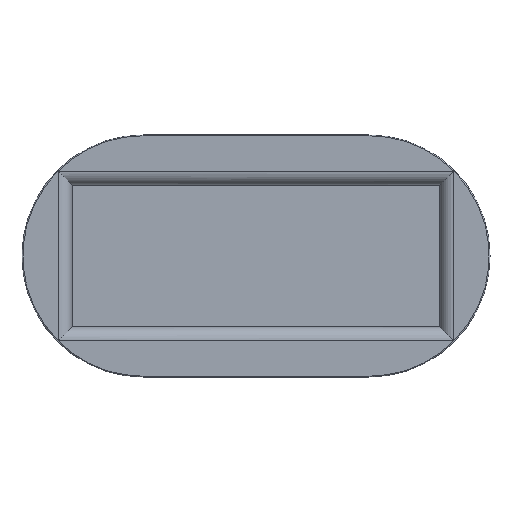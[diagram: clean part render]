
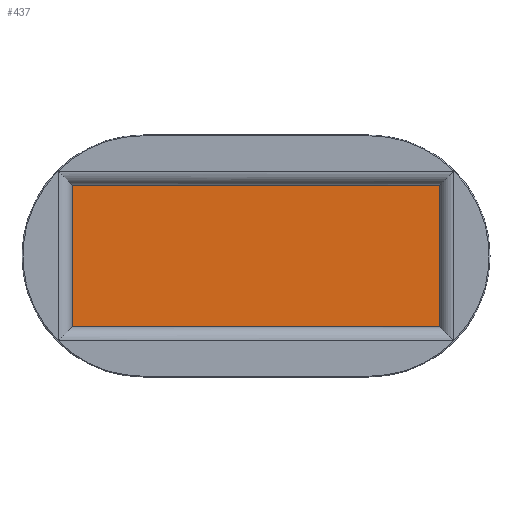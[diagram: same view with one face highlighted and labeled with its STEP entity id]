
A CAD part, top view. The second image highlights one B-rep face of the part: STEP entity #437.
In plain terms, the highlighted planar face has unit normal (0, 0, 1).
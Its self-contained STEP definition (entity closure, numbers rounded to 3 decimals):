
#7 = DIRECTION ( 'NONE',  ( 0., 0., 1. ) ) ;
#12 = CARTESIAN_POINT ( 'NONE',  ( 460., -180., 8.72 ) ) ;
#19 = DIRECTION ( 'NONE',  ( -1., 0., 0. ) ) ;
#58 = VERTEX_POINT ( 'NONE', #601 ) ;
#83 = EDGE_CURVE ( 'NONE', #58, #1250, #1380, .T. ) ;
#157 = CARTESIAN_POINT ( 'NONE',  ( 460., -180., 8.72 ) ) ;
#437 = ADVANCED_FACE ( 'NONE', ( #635 ), #905, .T. ) ;
#447 = VECTOR ( 'NONE', #1096, 1000. ) ;
#486 = VERTEX_POINT ( 'NONE', #157 ) ;
#601 = CARTESIAN_POINT ( 'NONE',  ( 460., 180., 8.72 ) ) ;
#635 = FACE_OUTER_BOUND ( 'NONE', #809, .T. ) ;
#693 = ORIENTED_EDGE ( 'NONE', *, *, #990, .T. ) ;
#723 = EDGE_CURVE ( 'NONE', #1250, #1653, #951, .T. ) ;
#809 = EDGE_LOOP ( 'NONE', ( #877, #693, #1647, #840 ) ) ;
#829 = LINE ( 'NONE', #1929, #878 ) ;
#840 = ORIENTED_EDGE ( 'NONE', *, *, #723, .T. ) ;
#877 = ORIENTED_EDGE ( 'NONE', *, *, #1826, .T. ) ;
#878 = VECTOR ( 'NONE', #1623, 1000. ) ;
#905 = PLANE ( 'NONE',  #1287 ) ;
#951 = LINE ( 'NONE', #1423, #447 ) ;
#954 = CARTESIAN_POINT ( 'NONE',  ( -460., -180., 8.72 ) ) ;
#990 = EDGE_CURVE ( 'NONE', #486, #58, #1037, .T. ) ;
#1037 = LINE ( 'NONE', #12, #1310 ) ;
#1085 = DIRECTION ( 'NONE',  ( 1., 0., 0. ) ) ;
#1096 = DIRECTION ( 'NONE',  ( 0., -1., 0. ) ) ;
#1250 = VERTEX_POINT ( 'NONE', #1630 ) ;
#1252 = CARTESIAN_POINT ( 'NONE',  ( 0., 0., 8.72 ) ) ;
#1287 = AXIS2_PLACEMENT_3D ( 'NONE', #1252, #7, #1085 ) ;
#1310 = VECTOR ( 'NONE', #1856, 1000. ) ;
#1380 = LINE ( 'NONE', #1391, #1446 ) ;
#1391 = CARTESIAN_POINT ( 'NONE',  ( 460., 180., 8.72 ) ) ;
#1423 = CARTESIAN_POINT ( 'NONE',  ( -460., 180., 8.72 ) ) ;
#1446 = VECTOR ( 'NONE', #19, 1000. ) ;
#1623 = DIRECTION ( 'NONE',  ( 1., 0., 0. ) ) ;
#1630 = CARTESIAN_POINT ( 'NONE',  ( -460., 180., 8.72 ) ) ;
#1647 = ORIENTED_EDGE ( 'NONE', *, *, #83, .T. ) ;
#1653 = VERTEX_POINT ( 'NONE', #954 ) ;
#1826 = EDGE_CURVE ( 'NONE', #1653, #486, #829, .T. ) ;
#1856 = DIRECTION ( 'NONE',  ( 0., 1., 0. ) ) ;
#1929 = CARTESIAN_POINT ( 'NONE',  ( -460., -180., 8.72 ) ) ;
